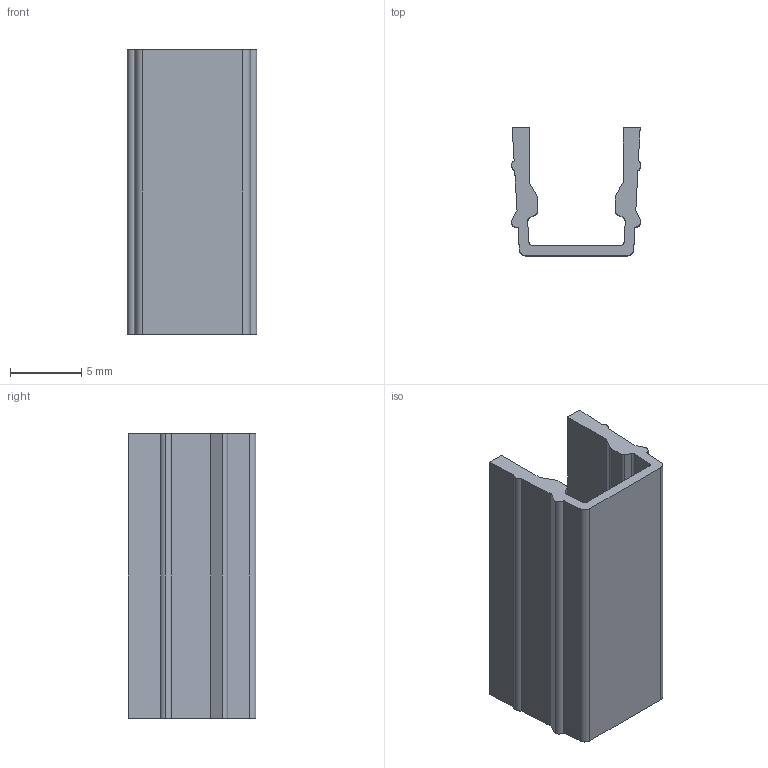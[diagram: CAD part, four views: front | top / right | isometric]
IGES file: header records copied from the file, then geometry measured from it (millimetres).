
Start section: SolidWorks IGES file using analytic representation for surfaces
Bounding box: 9.11 x 9 x 20 mm (x, y, z)
Surface area: 1109.7 mm2 (no closed solid volume)
Topology: 0 solids, 0 shells, 40 faces, 314 edges, 314 vertices
Faces by surface type: bspline 24, revolution 16
